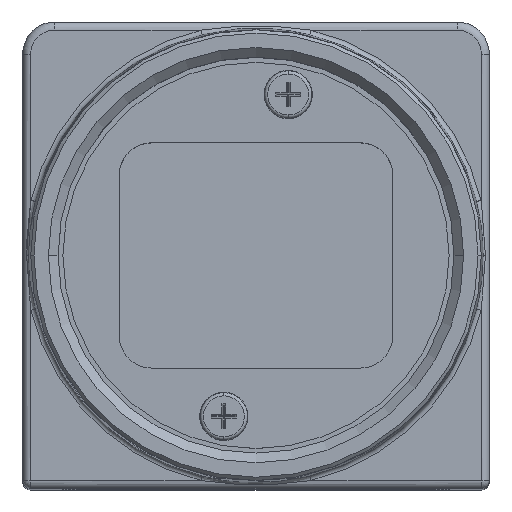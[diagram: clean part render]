
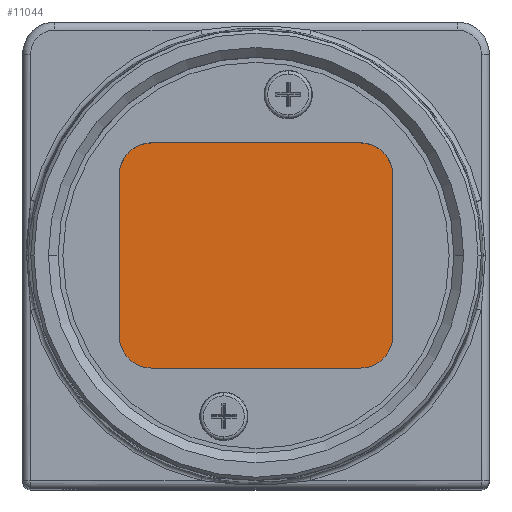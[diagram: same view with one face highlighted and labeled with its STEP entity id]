
A CAD part, top view. The second image highlights one B-rep face of the part: STEP entity #11044.
In plain terms, the highlighted planar face has unit normal (0, 0, 1).
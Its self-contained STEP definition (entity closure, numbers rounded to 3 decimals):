
#1961=CARTESIAN_POINT('',(-6.5,5.,39.01));
#1962=DIRECTION('',(0.,0.,1.));
#1963=DIRECTION('',(0.,1.,0.));
#1964=AXIS2_PLACEMENT_3D('',#1961,#1962,#1963);
#1966=DIRECTION('',(-1.,0.,0.));
#1967=VECTOR('',#1966,13.);
#1968=CARTESIAN_POINT('',(6.5,7.,39.01));
#1969=LINE('',#1968,#1967);
#1970=CARTESIAN_POINT('',(6.5,5.,39.01));
#1971=DIRECTION('',(0.,0.,1.));
#1972=DIRECTION('',(1.,0.,0.));
#1973=AXIS2_PLACEMENT_3D('',#1970,#1971,#1972);
#1975=DIRECTION('',(0.,1.,0.));
#1976=VECTOR('',#1975,10.);
#1977=CARTESIAN_POINT('',(8.5,-5.,39.01));
#1978=LINE('',#1977,#1976);
#1979=CARTESIAN_POINT('',(6.5,-5.,39.01));
#1980=DIRECTION('',(0.,0.,1.));
#1981=DIRECTION('',(0.,-1.,0.));
#1982=AXIS2_PLACEMENT_3D('',#1979,#1980,#1981);
#1984=DIRECTION('',(1.,0.,0.));
#1985=VECTOR('',#1984,13.);
#1986=CARTESIAN_POINT('',(-6.5,-7.,39.01));
#1987=LINE('',#1986,#1985);
#1988=CARTESIAN_POINT('',(-6.5,-5.,39.01));
#1989=DIRECTION('',(0.,0.,1.));
#1990=DIRECTION('',(-1.,0.,0.));
#1991=AXIS2_PLACEMENT_3D('',#1988,#1989,#1990);
#1993=DIRECTION('',(0.,-1.,0.));
#1994=VECTOR('',#1993,10.);
#1995=CARTESIAN_POINT('',(-8.5,5.,39.01));
#1996=LINE('',#1995,#1994);
#6784=CARTESIAN_POINT('',(6.5,7.,39.01));
#6785=VERTEX_POINT('',#6784);
#6786=CARTESIAN_POINT('',(-6.5,7.,39.01));
#6787=VERTEX_POINT('',#6786);
#6788=CARTESIAN_POINT('',(8.5,-5.,39.01));
#6789=VERTEX_POINT('',#6788);
#6790=CARTESIAN_POINT('',(8.5,5.,39.01));
#6791=VERTEX_POINT('',#6790);
#6792=CARTESIAN_POINT('',(-6.5,-7.,39.01));
#6793=VERTEX_POINT('',#6792);
#6794=CARTESIAN_POINT('',(6.5,-7.,39.01));
#6795=VERTEX_POINT('',#6794);
#6796=CARTESIAN_POINT('',(-8.5,5.,39.01));
#6797=VERTEX_POINT('',#6796);
#6798=CARTESIAN_POINT('',(-8.5,-5.,39.01));
#6799=VERTEX_POINT('',#6798);
#11029=CARTESIAN_POINT('',(0.,0.,39.01));
#11030=DIRECTION('',(0.,0.,1.));
#11031=DIRECTION('',(1.,0.,0.));
#11032=AXIS2_PLACEMENT_3D('',#11029,#11030,#11031);
#11033=PLANE('',#11032);
#11034=ORIENTED_EDGE('',*,*,#10974,.F.);
#11035=ORIENTED_EDGE('',*,*,#10995,.F.);
#11036=ORIENTED_EDGE('',*,*,#11015,.F.);
#11037=ORIENTED_EDGE('',*,*,#10868,.F.);
#11038=ORIENTED_EDGE('',*,*,#10890,.F.);
#11039=ORIENTED_EDGE('',*,*,#10911,.F.);
#11040=ORIENTED_EDGE('',*,*,#10932,.F.);
#11041=ORIENTED_EDGE('',*,*,#10953,.F.);
#11042=EDGE_LOOP('',(#11034,#11035,#11036,#11037,#11038,#11039,#11040,#11041));
#11043=FACE_OUTER_BOUND('',#11042,.F.);
#1965=CIRCLE('',#1964,2.);
#1974=CIRCLE('',#1973,2.);
#1983=CIRCLE('',#1982,2.);
#1992=CIRCLE('',#1991,2.);
#10868=EDGE_CURVE('',#6789,#6791,#1978,.T.);
#10890=EDGE_CURVE('',#6795,#6789,#1983,.T.);
#10911=EDGE_CURVE('',#6793,#6795,#1987,.T.);
#10932=EDGE_CURVE('',#6799,#6793,#1992,.T.);
#10953=EDGE_CURVE('',#6797,#6799,#1996,.T.);
#10974=EDGE_CURVE('',#6787,#6797,#1965,.T.);
#10995=EDGE_CURVE('',#6785,#6787,#1969,.T.);
#11015=EDGE_CURVE('',#6791,#6785,#1974,.T.);
#11044=ADVANCED_FACE('',(#11043),#11033,.T.);
